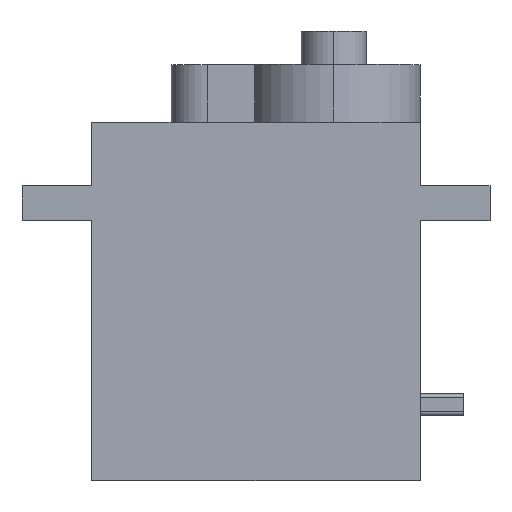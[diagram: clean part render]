
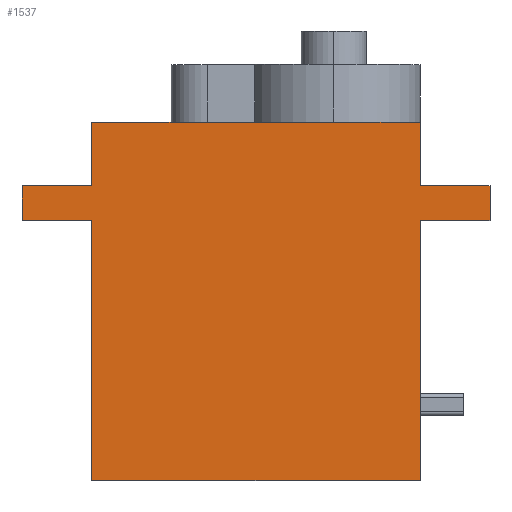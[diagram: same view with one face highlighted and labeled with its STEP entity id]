
A CAD part, top view. The second image highlights one B-rep face of the part: STEP entity #1537.
In plain terms, the highlighted planar face has unit normal (0, 0, 1).
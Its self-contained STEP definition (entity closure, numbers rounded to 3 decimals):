
#17 = VERTEX_POINT ( 'NONE', #1316 ) ;
#21 = EDGE_LOOP ( 'NONE', ( #490, #66, #557, #1008, #437, #849, #855, #1427, #1147, #150, #384, #1327, #811 ) ) ;
#27 = LINE ( 'NONE', #926, #367 ) ;
#32 = VECTOR ( 'NONE', #923, 1000. ) ;
#36 = DIRECTION ( 'NONE',  ( 0., -1., 0. ) ) ;
#60 = PLANE ( 'NONE',  #1475 ) ;
#66 = ORIENTED_EDGE ( 'NONE', *, *, #905, .F. ) ;
#83 = EDGE_CURVE ( 'NONE', #1373, #1027, #27, .T. ) ;
#108 = CARTESIAN_POINT ( 'NONE',  ( 4.825, 20.4, 0. ) ) ;
#109 = CARTESIAN_POINT ( 'NONE',  ( 0., 24.8, 0. ) ) ;
#114 = VECTOR ( 'NONE', #611, 1000. ) ;
#128 = DIRECTION ( 'NONE',  ( 1., 0., 0. ) ) ;
#135 = CARTESIAN_POINT ( 'NONE',  ( 0., 0., 0. ) ) ;
#140 = DIRECTION ( 'NONE',  ( 1., 0., 0. ) ) ;
#147 = VERTEX_POINT ( 'NONE', #1161 ) ;
#150 = ORIENTED_EDGE ( 'NONE', *, *, #220, .F. ) ;
#178 = CARTESIAN_POINT ( 'NONE',  ( -27.575, 20.4, 0. ) ) ;
#184 = EDGE_CURVE ( 'NONE', #1285, #359, #1353, .T. ) ;
#207 = LINE ( 'NONE', #445, #32 ) ;
#220 = EDGE_CURVE ( 'NONE', #1285, #676, #831, .T. ) ;
#222 = VECTOR ( 'NONE', #140, 1000. ) ;
#247 = CARTESIAN_POINT ( 'NONE',  ( 0., 24.8, 0. ) ) ;
#256 = DIRECTION ( 'NONE',  ( 1., 0., 0. ) ) ;
#273 = FACE_OUTER_BOUND ( 'NONE', #21, .T. ) ;
#292 = VERTEX_POINT ( 'NONE', #108 ) ;
#302 = DIRECTION ( 'NONE',  ( 0., -1., 0. ) ) ;
#304 = DIRECTION ( 'NONE',  ( -1., 0., 0. ) ) ;
#327 = EDGE_CURVE ( 'NONE', #1282, #1373, #397, .T. ) ;
#333 = VERTEX_POINT ( 'NONE', #1097 ) ;
#359 = VERTEX_POINT ( 'NONE', #510 ) ;
#367 = VECTOR ( 'NONE', #808, 1000. ) ;
#372 = LINE ( 'NONE', #394, #1400 ) ;
#384 = ORIENTED_EDGE ( 'NONE', *, *, #184, .T. ) ;
#392 = VECTOR ( 'NONE', #36, 1000. ) ;
#394 = CARTESIAN_POINT ( 'NONE',  ( 4.825, 20.4, 0. ) ) ;
#397 = LINE ( 'NONE', #609, #222 ) ;
#403 = CARTESIAN_POINT ( 'NONE',  ( 0., 18., 0. ) ) ;
#422 = DIRECTION ( 'NONE',  ( 1., 0., 0. ) ) ;
#429 = LINE ( 'NONE', #403, #1186 ) ;
#437 = ORIENTED_EDGE ( 'NONE', *, *, #732, .F. ) ;
#445 = CARTESIAN_POINT ( 'NONE',  ( 4.825, 18., 0. ) ) ;
#452 = EDGE_CURVE ( 'NONE', #1233, #676, #764, .T. ) ;
#473 = CARTESIAN_POINT ( 'NONE',  ( 4.825, 20.4, 0. ) ) ;
#477 = CARTESIAN_POINT ( 'NONE',  ( -22.75, 20.4, 0. ) ) ;
#490 = ORIENTED_EDGE ( 'NONE', *, *, #1140, .T. ) ;
#508 = CARTESIAN_POINT ( 'NONE',  ( 4.825, 20.4, 0. ) ) ;
#510 = CARTESIAN_POINT ( 'NONE',  ( -27.575, 18., 0. ) ) ;
#522 = VECTOR ( 'NONE', #1290, 1000. ) ;
#555 = CARTESIAN_POINT ( 'NONE',  ( -22.75, 24.8, 0. ) ) ;
#557 = ORIENTED_EDGE ( 'NONE', *, *, #1057, .T. ) ;
#559 = CARTESIAN_POINT ( 'NONE',  ( 4.825, 18., 0. ) ) ;
#586 = LINE ( 'NONE', #247, #717 ) ;
#609 = CARTESIAN_POINT ( 'NONE',  ( 0., 24.8, 0. ) ) ;
#611 = DIRECTION ( 'NONE',  ( 1., 0., 0. ) ) ;
#667 = VECTOR ( 'NONE', #1507, 1000. ) ;
#669 = VECTOR ( 'NONE', #1349, 1000. ) ;
#676 = VERTEX_POINT ( 'NONE', #477 ) ;
#717 = VECTOR ( 'NONE', #128, 1000. ) ;
#723 = EDGE_CURVE ( 'NONE', #292, #17, #762, .T. ) ;
#732 = EDGE_CURVE ( 'NONE', #1027, #292, #372, .T. ) ;
#762 = LINE ( 'NONE', #508, #669 ) ;
#764 = LINE ( 'NONE', #555, #1326 ) ;
#808 = DIRECTION ( 'NONE',  ( 0., -1., 0. ) ) ;
#811 = ORIENTED_EDGE ( 'NONE', *, *, #1558, .T. ) ;
#831 = LINE ( 'NONE', #473, #522 ) ;
#849 = ORIENTED_EDGE ( 'NONE', *, *, #83, .F. ) ;
#855 = ORIENTED_EDGE ( 'NONE', *, *, #327, .F. ) ;
#887 = DIRECTION ( 'NONE',  ( 0., 0., -1. ) ) ;
#895 = LINE ( 'NONE', #559, #945 ) ;
#905 = EDGE_CURVE ( 'NONE', #1310, #1158, #429, .T. ) ;
#923 = DIRECTION ( 'NONE',  ( 1., 0., 0. ) ) ;
#926 = CARTESIAN_POINT ( 'NONE',  ( 0., 24.8, 0. ) ) ;
#945 = VECTOR ( 'NONE', #422, 1000. ) ;
#984 = CARTESIAN_POINT ( 'NONE',  ( 0., 18., 0. ) ) ;
#1008 = ORIENTED_EDGE ( 'NONE', *, *, #723, .F. ) ;
#1027 = VERTEX_POINT ( 'NONE', #1155 ) ;
#1057 = EDGE_CURVE ( 'NONE', #1310, #17, #207, .T. ) ;
#1097 = CARTESIAN_POINT ( 'NONE',  ( -22.75, 18., 0. ) ) ;
#1140 = EDGE_CURVE ( 'NONE', #147, #1158, #1276, .T. ) ;
#1147 = ORIENTED_EDGE ( 'NONE', *, *, #452, .T. ) ;
#1153 = CARTESIAN_POINT ( 'NONE',  ( -22.75, 18., 0. ) ) ;
#1155 = CARTESIAN_POINT ( 'NONE',  ( 0., 20.4, 0. ) ) ;
#1158 = VERTEX_POINT ( 'NONE', #1457 ) ;
#1161 = CARTESIAN_POINT ( 'NONE',  ( -22.75, 0., 0. ) ) ;
#1186 = VECTOR ( 'NONE', #1256, 1000. ) ;
#1208 = EDGE_CURVE ( 'NONE', #1233, #1282, #586, .T. ) ;
#1233 = VERTEX_POINT ( 'NONE', #1464 ) ;
#1250 = CARTESIAN_POINT ( 'NONE',  ( 0., 18., 0. ) ) ;
#1256 = DIRECTION ( 'NONE',  ( 0., -1., 0. ) ) ;
#1276 = LINE ( 'NONE', #135, #114 ) ;
#1282 = VERTEX_POINT ( 'NONE', #1365 ) ;
#1285 = VERTEX_POINT ( 'NONE', #178 ) ;
#1290 = DIRECTION ( 'NONE',  ( 1., 0., 0. ) ) ;
#1310 = VERTEX_POINT ( 'NONE', #984 ) ;
#1316 = CARTESIAN_POINT ( 'NONE',  ( 4.825, 18., 0. ) ) ;
#1326 = VECTOR ( 'NONE', #302, 1000. ) ;
#1327 = ORIENTED_EDGE ( 'NONE', *, *, #1412, .T. ) ;
#1349 = DIRECTION ( 'NONE',  ( 0., -1., 0. ) ) ;
#1353 = LINE ( 'NONE', #1409, #392 ) ;
#1364 = LINE ( 'NONE', #1153, #667 ) ;
#1365 = CARTESIAN_POINT ( 'NONE',  ( -6., 24.8, 0. ) ) ;
#1373 = VERTEX_POINT ( 'NONE', #109 ) ;
#1400 = VECTOR ( 'NONE', #256, 1000. ) ;
#1409 = CARTESIAN_POINT ( 'NONE',  ( -27.575, 20.4, 0. ) ) ;
#1412 = EDGE_CURVE ( 'NONE', #359, #333, #895, .T. ) ;
#1427 = ORIENTED_EDGE ( 'NONE', *, *, #1208, .F. ) ;
#1457 = CARTESIAN_POINT ( 'NONE',  ( 0., 0., 0. ) ) ;
#1464 = CARTESIAN_POINT ( 'NONE',  ( -22.75, 24.8, 0. ) ) ;
#1475 = AXIS2_PLACEMENT_3D ( 'NONE', #1250, #887, #304 ) ;
#1507 = DIRECTION ( 'NONE',  ( 0., -1., 0. ) ) ;
#1537 = ADVANCED_FACE ( 'NONE', ( #273 ), #60, .F. ) ;
#1558 = EDGE_CURVE ( 'NONE', #333, #147, #1364, .T. ) ;
